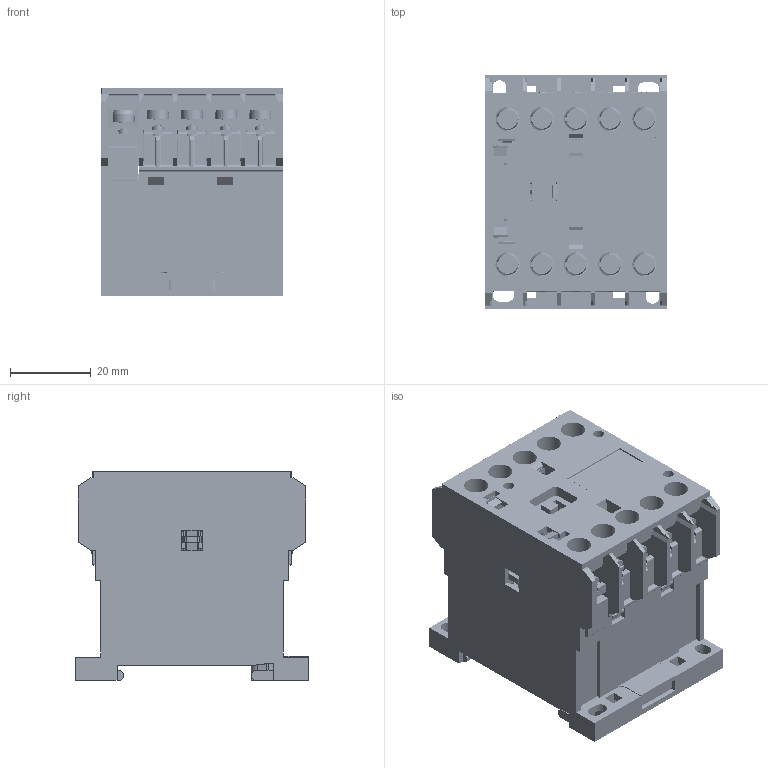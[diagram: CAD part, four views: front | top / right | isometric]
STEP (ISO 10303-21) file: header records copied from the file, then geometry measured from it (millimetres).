
FILE_DESCRIPTION((''),'2;1');
FILE_NAME('PRT0001','2023-07-09T10:00:54',('design1'),(''),'CREO PARAMETRIC BY PTC INC, 2022284','CREO PARAMETRIC BY PTC INC, 2022284','');
FILE_SCHEMA(('CONFIG_CONTROL_DESIGN'));
Products named in the file (1): PRT0001
Bounding box: 45 x 58 x 51.75 mm (x, y, z)
Volume: 1616.2 mm3; surface area: 74117.1 mm2
Topology: 28 solids, 31 shells, 5489 faces, 16952 edges, 11455 vertices
Faces by surface type: plane 3782, cylinder 1343, torus 162, bspline 89, extrusion 47, sphere 44, cone 22
Entity records: 201000 total; most frequent: CARTESIAN_POINT 48659, ORIENTED_EDGE 33728, DIRECTION 29545, EDGE_CURVE 16872, VECTOR 12541, LINE 12494, VERTEX_POINT 11455, AXIS2_PLACEMENT_3D 8502
